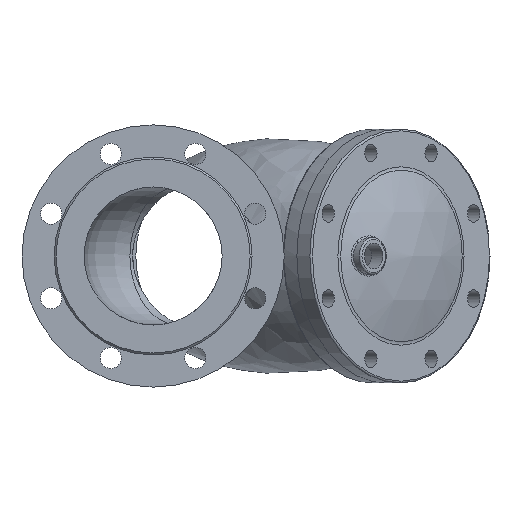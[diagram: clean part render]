
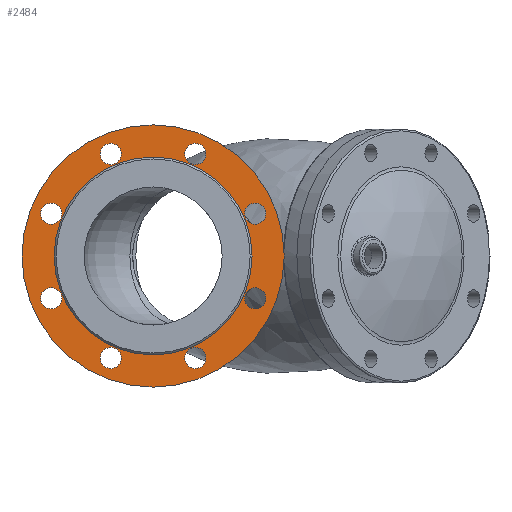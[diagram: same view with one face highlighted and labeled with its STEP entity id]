
A CAD part, left-side view. The second image highlights one B-rep face of the part: STEP entity #2484.
In plain terms, the highlighted planar face has unit normal (-1, 0, 0).
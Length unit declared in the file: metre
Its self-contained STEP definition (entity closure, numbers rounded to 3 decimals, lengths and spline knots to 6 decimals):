
#57=FACE_BOUND('',#585,.T.);
#58=FACE_BOUND('',#586,.T.);
#59=FACE_BOUND('',#587,.T.);
#60=FACE_BOUND('',#588,.T.);
#61=FACE_BOUND('',#589,.T.);
#62=FACE_BOUND('',#590,.T.);
#63=FACE_BOUND('',#591,.T.);
#64=FACE_BOUND('',#592,.T.);
#65=FACE_BOUND('',#593,.T.);
#116=PLANE('',#2788);
#430=FACE_OUTER_BOUND('',#584,.T.);
#584=EDGE_LOOP('',(#1961));
#585=EDGE_LOOP('',(#1962));
#586=EDGE_LOOP('',(#1963));
#587=EDGE_LOOP('',(#1964));
#588=EDGE_LOOP('',(#1965));
#589=EDGE_LOOP('',(#1966));
#590=EDGE_LOOP('',(#1967));
#591=EDGE_LOOP('',(#1968));
#592=EDGE_LOOP('',(#1969));
#593=EDGE_LOOP('',(#1970));
#859=CIRCLE('',#2683,0.0115);
#861=CIRCLE('',#2686,0.0115);
#863=CIRCLE('',#2689,0.0115);
#865=CIRCLE('',#2692,0.0115);
#867=CIRCLE('',#2695,0.0115);
#869=CIRCLE('',#2698,0.0115);
#871=CIRCLE('',#2701,0.0115);
#873=CIRCLE('',#2704,0.0115);
#928=CIRCLE('',#2789,0.1425);
#929=CIRCLE('',#2790,0.1075);
#1077=VERTEX_POINT('',#5485);
#1079=VERTEX_POINT('',#5491);
#1081=VERTEX_POINT('',#5497);
#1083=VERTEX_POINT('',#5503);
#1085=VERTEX_POINT('',#5509);
#1087=VERTEX_POINT('',#5515);
#1089=VERTEX_POINT('',#5521);
#1091=VERTEX_POINT('',#5527);
#1180=VERTEX_POINT('',#7479);
#1181=VERTEX_POINT('',#7481);
#1341=EDGE_CURVE('',#1077,#1077,#859,.T.);
#1344=EDGE_CURVE('',#1079,#1079,#861,.T.);
#1347=EDGE_CURVE('',#1081,#1081,#863,.T.);
#1350=EDGE_CURVE('',#1083,#1083,#865,.T.);
#1353=EDGE_CURVE('',#1085,#1085,#867,.T.);
#1356=EDGE_CURVE('',#1087,#1087,#869,.T.);
#1359=EDGE_CURVE('',#1089,#1089,#871,.T.);
#1362=EDGE_CURVE('',#1091,#1091,#873,.T.);
#1490=EDGE_CURVE('',#1180,#1180,#928,.T.);
#1491=EDGE_CURVE('',#1181,#1181,#929,.T.);
#1961=ORIENTED_EDGE('',*,*,#1490,.T.);
#1962=ORIENTED_EDGE('',*,*,#1491,.F.);
#1963=ORIENTED_EDGE('',*,*,#1362,.F.);
#1964=ORIENTED_EDGE('',*,*,#1359,.F.);
#1965=ORIENTED_EDGE('',*,*,#1356,.F.);
#1966=ORIENTED_EDGE('',*,*,#1353,.F.);
#1967=ORIENTED_EDGE('',*,*,#1350,.F.);
#1968=ORIENTED_EDGE('',*,*,#1347,.F.);
#1969=ORIENTED_EDGE('',*,*,#1344,.F.);
#1970=ORIENTED_EDGE('',*,*,#1341,.F.);
#2484=ADVANCED_FACE('',(#430,#57,#58,#59,#60,#61,#62,#63,#64,#65),#116,
 .F.);
#2683=AXIS2_PLACEMENT_3D('',#5487,#3083,#3084);
#2686=AXIS2_PLACEMENT_3D('',#5493,#3090,#3091);
#2689=AXIS2_PLACEMENT_3D('',#5499,#3097,#3098);
#2692=AXIS2_PLACEMENT_3D('',#5505,#3104,#3105);
#2695=AXIS2_PLACEMENT_3D('',#5511,#3111,#3112);
#2698=AXIS2_PLACEMENT_3D('',#5517,#3118,#3119);
#2701=AXIS2_PLACEMENT_3D('',#5523,#3125,#3126);
#2704=AXIS2_PLACEMENT_3D('',#5529,#3132,#3133);
#2788=AXIS2_PLACEMENT_3D('',#7478,#3329,#3330);
#2789=AXIS2_PLACEMENT_3D('',#7480,#3331,#3332);
#2790=AXIS2_PLACEMENT_3D('',#7482,#3333,#3334);
#3083=DIRECTION('center_axis',(-1.,0.,0.));
#3084=DIRECTION('ref_axis',(0.,0.,1.));
#3090=DIRECTION('center_axis',(-1.,0.,0.));
#3091=DIRECTION('ref_axis',(0.,0.,1.));
#3097=DIRECTION('center_axis',(-1.,0.,0.));
#3098=DIRECTION('ref_axis',(0.,0.,1.));
#3104=DIRECTION('center_axis',(-1.,0.,0.));
#3105=DIRECTION('ref_axis',(0.,0.,1.));
#3111=DIRECTION('center_axis',(-1.,0.,0.));
#3112=DIRECTION('ref_axis',(0.,0.,1.));
#3118=DIRECTION('center_axis',(-1.,0.,0.));
#3119=DIRECTION('ref_axis',(0.,0.,1.));
#3125=DIRECTION('center_axis',(-1.,0.,0.));
#3126=DIRECTION('ref_axis',(0.,0.,1.));
#3132=DIRECTION('center_axis',(-1.,0.,0.));
#3133=DIRECTION('ref_axis',(0.,0.,1.));
#3329=DIRECTION('center_axis',(1.,0.,0.));
#3330=DIRECTION('ref_axis',(0.,1.,0.));
#3331=DIRECTION('center_axis',(-1.,0.,0.));
#3332=DIRECTION('ref_axis',(0.,0.,1.));
#3333=DIRECTION('center_axis',(-1.,0.,0.));
#3334=DIRECTION('ref_axis',(0.,0.,1.));
#5485=CARTESIAN_POINT('',(-0.238,0.110866,0.034422));
#5487=CARTESIAN_POINT('Origin',(-0.238,0.110866,0.045922));
#5491=CARTESIAN_POINT('',(-0.238,0.110866,-0.057422));
#5493=CARTESIAN_POINT('Origin',(-0.238,0.110866,-0.045922));
#5497=CARTESIAN_POINT('',(-0.238,0.045922,-0.122366));
#5499=CARTESIAN_POINT('Origin',(-0.238,0.045922,-0.110866));
#5503=CARTESIAN_POINT('',(-0.238,-0.045922,-0.122366));
#5505=CARTESIAN_POINT('Origin',(-0.238,-0.045922,-0.110866));
#5509=CARTESIAN_POINT('',(-0.238,-0.110866,-0.057422));
#5511=CARTESIAN_POINT('Origin',(-0.238,-0.110866,-0.045922));
#5515=CARTESIAN_POINT('',(-0.238,-0.110866,0.034422));
#5517=CARTESIAN_POINT('Origin',(-0.238,-0.110866,0.045922));
#5521=CARTESIAN_POINT('',(-0.238,-0.045922,0.099366));
#5523=CARTESIAN_POINT('Origin',(-0.238,-0.045922,0.110866));
#5527=CARTESIAN_POINT('',(-0.238,0.045922,0.099366));
#5529=CARTESIAN_POINT('Origin',(-0.238,0.045922,0.110866));
#7478=CARTESIAN_POINT('Origin',(-0.238,0.1075,0.));
#7479=CARTESIAN_POINT('',(-0.238,0.,-0.1425));
#7480=CARTESIAN_POINT('Origin',(-0.238,0.,0.));
#7481=CARTESIAN_POINT('',(-0.238,0.,-0.1075));
#7482=CARTESIAN_POINT('Origin',(-0.238,0.,0.));
